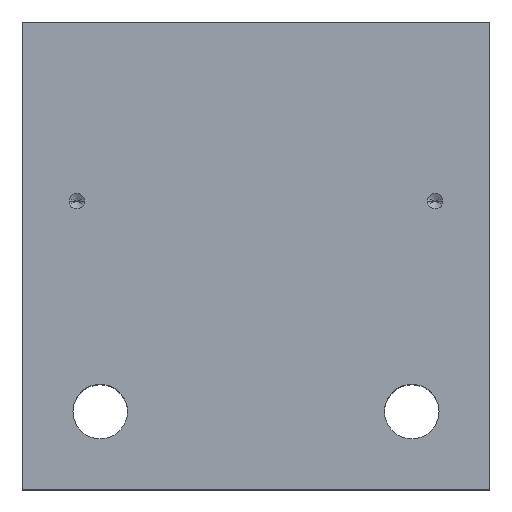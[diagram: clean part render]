
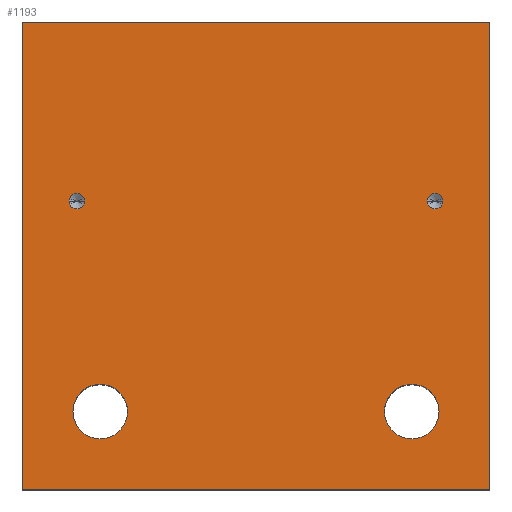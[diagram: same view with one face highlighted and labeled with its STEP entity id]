
A CAD part, top view. The second image highlights one B-rep face of the part: STEP entity #1193.
In plain terms, the highlighted planar face has unit normal (0, 0, 1).
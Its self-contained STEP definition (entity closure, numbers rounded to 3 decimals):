
#19=DIRECTION('',(1.,0.,0.));
#20=VECTOR('',#19,60.);
#21=CARTESIAN_POINT('',(0.,0.,0.));
#22=LINE('',#21,#20);
#27=DIRECTION('',(0.,-1.,0.));
#28=VECTOR('',#27,60.);
#29=CARTESIAN_POINT('',(0.,60.,0.));
#30=LINE('',#29,#28);
#34=DIRECTION('',(-1.,0.,0.));
#35=VECTOR('',#34,60.);
#36=CARTESIAN_POINT('',(60.,60.,0.));
#37=LINE('',#36,#35);
#41=DIRECTION('',(0.,1.,0.));
#42=VECTOR('',#41,60.);
#43=CARTESIAN_POINT('',(60.,0.,0.));
#44=LINE('',#43,#42);
#48=CARTESIAN_POINT('',(7.,37.,0.));
#49=DIRECTION('',(0.,0.,1.));
#50=DIRECTION('',(-1.,0.,0.));
#51=AXIS2_PLACEMENT_3D('',#48,#49,#50);
#56=CARTESIAN_POINT('',(7.,37.,0.));
#57=DIRECTION('',(0.,0.,1.));
#58=DIRECTION('',(1.,0.,0.));
#59=AXIS2_PLACEMENT_3D('',#56,#57,#58);
#64=CARTESIAN_POINT('',(53.,37.,0.));
#65=DIRECTION('',(0.,0.,1.));
#66=DIRECTION('',(-1.,0.,0.));
#67=AXIS2_PLACEMENT_3D('',#64,#65,#66);
#72=CARTESIAN_POINT('',(53.,37.,0.));
#73=DIRECTION('',(0.,0.,1.));
#74=DIRECTION('',(1.,0.,0.));
#75=AXIS2_PLACEMENT_3D('',#72,#73,#74);
#80=CARTESIAN_POINT('',(10.,10.,0.));
#81=DIRECTION('',(0.,0.,-1.));
#82=DIRECTION('',(-1.,0.,0.));
#83=AXIS2_PLACEMENT_3D('',#80,#81,#82);
#88=CARTESIAN_POINT('',(10.,10.,0.));
#89=DIRECTION('',(0.,0.,-1.));
#90=DIRECTION('',(1.,0.,0.));
#91=AXIS2_PLACEMENT_3D('',#88,#89,#90);
#96=CARTESIAN_POINT('',(50.,10.,0.));
#97=DIRECTION('',(0.,0.,-1.));
#98=DIRECTION('',(-1.,0.,0.));
#99=AXIS2_PLACEMENT_3D('',#96,#97,#98);
#104=CARTESIAN_POINT('',(50.,10.,0.));
#105=DIRECTION('',(0.,0.,-1.));
#106=DIRECTION('',(1.,0.,0.));
#107=AXIS2_PLACEMENT_3D('',#104,#105,#106);
#1014=CARTESIAN_POINT('',(0.,0.,0.));
#1015=CARTESIAN_POINT('',(60.,0.,0.));
#1016=VERTEX_POINT('',#1014);
#1017=VERTEX_POINT('',#1015);
#1018=CARTESIAN_POINT('',(60.,60.,0.));
#1019=VERTEX_POINT('',#1018);
#1020=CARTESIAN_POINT('',(0.,60.,0.));
#1021=VERTEX_POINT('',#1020);
#1124=CARTESIAN_POINT('',(6.,37.,0.));
#1125=CARTESIAN_POINT('',(8.,37.,0.));
#1126=VERTEX_POINT('',#1124);
#1127=VERTEX_POINT('',#1125);
#1134=CARTESIAN_POINT('',(52.,37.,0.));
#1135=CARTESIAN_POINT('',(54.,37.,0.));
#1136=VERTEX_POINT('',#1134);
#1137=VERTEX_POINT('',#1135);
#1138=CARTESIAN_POINT('',(6.5,10.,0.));
#1139=CARTESIAN_POINT('',(13.5,10.,0.));
#1140=VERTEX_POINT('',#1138);
#1141=VERTEX_POINT('',#1139);
#1146=CARTESIAN_POINT('',(46.5,10.,0.));
#1147=CARTESIAN_POINT('',(53.5,10.,0.));
#1148=VERTEX_POINT('',#1146);
#1149=VERTEX_POINT('',#1147);
#1154=CARTESIAN_POINT('',(0.,0.,0.));
#1155=DIRECTION('',(0.,0.,1.));
#1156=DIRECTION('',(1.,0.,0.));
#1157=AXIS2_PLACEMENT_3D('',#1154,#1155,#1156);
#1158=PLANE('',#1157);
#1160=ORIENTED_EDGE('',*,*,#1159,.F.);
#1162=ORIENTED_EDGE('',*,*,#1161,.F.);
#1164=ORIENTED_EDGE('',*,*,#1163,.F.);
#1166=ORIENTED_EDGE('',*,*,#1165,.F.);
#1167=EDGE_LOOP('',(#1160,#1162,#1164,#1166));
#1168=FACE_OUTER_BOUND('',#1167,.F.);
#1170=ORIENTED_EDGE('',*,*,#1169,.T.);
#1172=ORIENTED_EDGE('',*,*,#1171,.T.);
#1173=EDGE_LOOP('',(#1170,#1172));
#1174=FACE_BOUND('',#1173,.F.);
#1176=ORIENTED_EDGE('',*,*,#1175,.T.);
#1178=ORIENTED_EDGE('',*,*,#1177,.T.);
#1179=EDGE_LOOP('',(#1176,#1178));
#1180=FACE_BOUND('',#1179,.F.);
#1182=ORIENTED_EDGE('',*,*,#1181,.F.);
#1184=ORIENTED_EDGE('',*,*,#1183,.F.);
#1185=EDGE_LOOP('',(#1182,#1184));
#1186=FACE_BOUND('',#1185,.F.);
#1188=ORIENTED_EDGE('',*,*,#1187,.F.);
#1190=ORIENTED_EDGE('',*,*,#1189,.F.);
#1191=EDGE_LOOP('',(#1188,#1190));
#1192=FACE_BOUND('',#1191,.F.);
#52=CIRCLE('',#51,1.);
#60=CIRCLE('',#59,1.);
#68=CIRCLE('',#67,1.);
#76=CIRCLE('',#75,1.);
#84=CIRCLE('',#83,3.5);
#92=CIRCLE('',#91,3.5);
#100=CIRCLE('',#99,3.5);
#108=CIRCLE('',#107,3.5);
#1159=EDGE_CURVE('',#1016,#1017,#22,.T.);
#1161=EDGE_CURVE('',#1021,#1016,#30,.T.);
#1163=EDGE_CURVE('',#1019,#1021,#37,.T.);
#1165=EDGE_CURVE('',#1017,#1019,#44,.T.);
#1169=EDGE_CURVE('',#1126,#1127,#52,.T.);
#1171=EDGE_CURVE('',#1127,#1126,#60,.T.);
#1175=EDGE_CURVE('',#1136,#1137,#68,.T.);
#1177=EDGE_CURVE('',#1137,#1136,#76,.T.);
#1181=EDGE_CURVE('',#1140,#1141,#84,.T.);
#1183=EDGE_CURVE('',#1141,#1140,#92,.T.);
#1187=EDGE_CURVE('',#1148,#1149,#100,.T.);
#1189=EDGE_CURVE('',#1149,#1148,#108,.T.);
#1193=ADVANCED_FACE('',(#1168,#1174,#1180,#1186,#1192),#1158,.T.);
